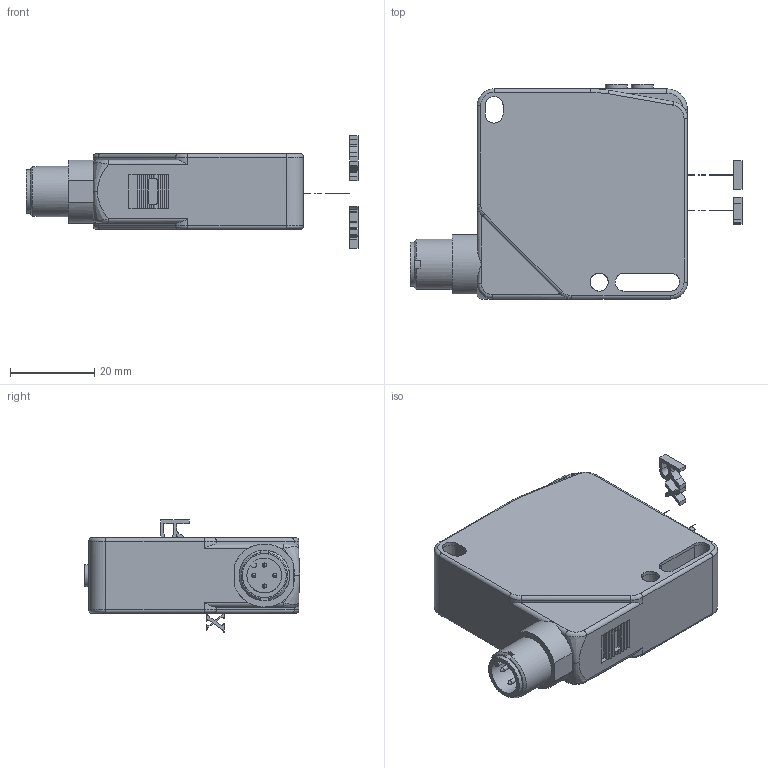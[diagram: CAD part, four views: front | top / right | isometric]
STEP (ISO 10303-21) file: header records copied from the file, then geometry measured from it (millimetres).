
FILE_DESCRIPTION(/* description */ (''),/* implementation_level */ '2;1');
FILE_NAME(/* name */ 'DSD-0137b S62L-B Conn2.stp',/* time_stamp */ '2014-10-28T15:31:22+01:00',/* author */ (''),/* organization */ (''),/* preprocessor_version */ 'ST-DEVELOPER v11',/* originating_system */ 'SIEMENS PLM Software NX 7.5',/* authorisation */ '');
FILE_SCHEMA (('AP203_CONFIGURATION_CONTROLLED_3D_DESIGN_OF_MECHANICAL_PARTS_AND_ASSEMBLIES_MIM_LF'));
Length unit declared in the file: millimetre
Products named in the file (1): AP007854_00
Bounding box: 79 x 51.28 x 26.68 mm (x, y, z)
Surface area: 11431.9 mm2
Topology: 9 solids, 13 shells, 593 faces, 1462 edges, 898 vertices
Faces by surface type: plane 273, cylinder 142, bspline 141, cone 35, torus 2
Full cylindrical faces by diameter (mm): 0.1 x6, 1 x4, 4.3 x1, 4.95 x1, 10.4 x1, 12 x1
Entity records: 40132 total; most frequent: CARTESIAN_POINT 25025, ORIENTED_EDGE 2824, EDGE_CURVE 1415, DIRECTION 1145, B_SPLINE_CURVE_WITH_KNOTS 1122, VERTEX_POINT 896, EDGE_LOOP 655, PRESENTATION_STYLE_ASSIGNMENT 605
